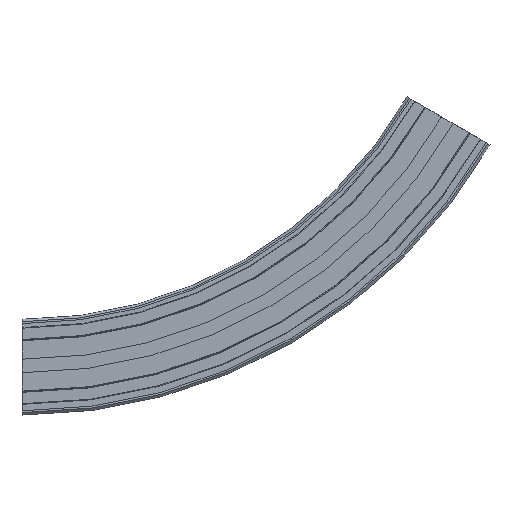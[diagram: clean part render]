
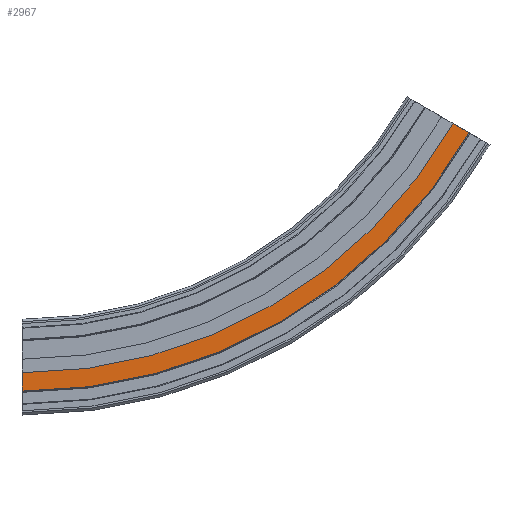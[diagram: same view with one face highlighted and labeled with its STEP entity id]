
A CAD part, front view. The second image highlights one B-rep face of the part: STEP entity #2967.
In plain terms, the highlighted planar face has unit normal (0, -1, 0).
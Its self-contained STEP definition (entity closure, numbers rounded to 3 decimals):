
#2909=CARTESIAN_POINT('',(364.164,-32.,151.75));
#2910=VERTEX_POINT('',#2909);
#2917=CARTESIAN_POINT('',(0.0,-32.,-58.5));
#2918=VERTEX_POINT('',#2917);
#2919=CARTESIAN_POINT('',(0.,-32.,362.0));
#2920=DIRECTION('',(0.0,-1.,0.0));
#2921=DIRECTION('',(-0.866,0.0,0.5));
#2922=AXIS2_PLACEMENT_3D('',#2919,#2920,#2921);
#2923=CIRCLE('',#2922,420.5);
#2924=EDGE_CURVE('',#2918,#2910,#2923,.T.);
#2936=CARTESIAN_POINT('',(0.0,-32.,-51.));
#2937=DIRECTION('',(0.0,-1.0,0.0));
#2938=DIRECTION('',(0.0,0.0,-1.0));
#2939=AXIS2_PLACEMENT_3D('',#2936,#2937,#2938);
#2940=PLANE('',#2939);
#2941=CARTESIAN_POINT('',(351.173,-32.,159.25));
#2942=VERTEX_POINT('',#2941);
#2943=CARTESIAN_POINT('',(364.164,-32.,151.75));
#2944=DIRECTION('',(-0.866,0.,0.5));
#2945=VECTOR('',#2944,15.);
#2946=LINE('',#2943,#2945);
#2947=EDGE_CURVE('',#2910,#2942,#2946,.T.);
#2948=ORIENTED_EDGE('',*,*,#2947,.T.);
#2949=CARTESIAN_POINT('',(0.0,-32.,-43.5));
#2950=VERTEX_POINT('',#2949);
#2951=CARTESIAN_POINT('',(0.,-32.,362.0));
#2952=DIRECTION('',(0.0,-1.,0.0));
#2953=DIRECTION('',(-0.866,0.0,0.5));
#2954=AXIS2_PLACEMENT_3D('',#2951,#2952,#2953);
#2955=CIRCLE('',#2954,405.5);
#2956=EDGE_CURVE('',#2950,#2942,#2955,.T.);
#2957=ORIENTED_EDGE('',*,*,#2956,.F.);
#2958=CARTESIAN_POINT('',(0.0,-32.,-43.5));
#2959=DIRECTION('',(0.0,0.0,-1.0));
#2960=VECTOR('',#2959,15.);
#2961=LINE('',#2958,#2960);
#2962=EDGE_CURVE('',#2950,#2918,#2961,.T.);
#2963=ORIENTED_EDGE('',*,*,#2962,.T.);
#2964=ORIENTED_EDGE('',*,*,#2924,.T.);
#2965=EDGE_LOOP('',(#2948,#2957,#2963,#2964));
#2966=FACE_OUTER_BOUND('',#2965,.T.);
#2967=ADVANCED_FACE('',(#2966),#2940,.T.);
